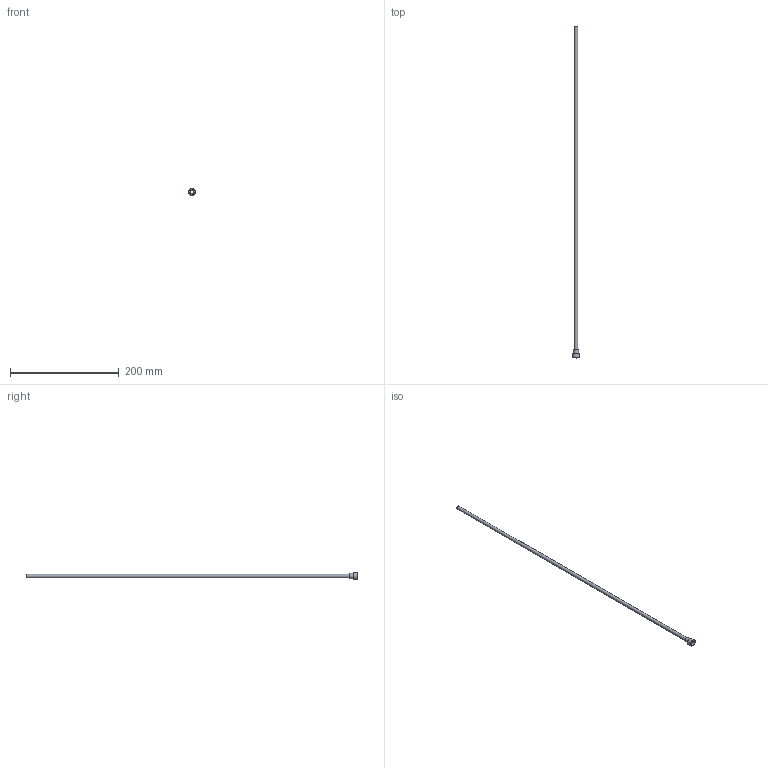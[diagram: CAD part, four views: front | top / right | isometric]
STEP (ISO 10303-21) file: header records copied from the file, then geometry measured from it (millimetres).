
FILE_DESCRIPTION(/* description */ (''),/* implementation_level */ '2;1');
FILE_NAME(/* name */ 'C:/Users/drich/Desktop/JR250T-24 v1.step',/* time_stamp */ '2019-12-30T13:05:47-06:00',/* author */ (''),/* organization */ (''),/* preprocessor_version */ 'ST-DEVELOPER v18',/* originating_system */ 'Autodesk Translation Framework v8.12.0.6',/* authorisation */ '');
FILE_SCHEMA (('AUTOMOTIVE_DESIGN { 1 0 10303 214 3 1 1 }'));
Length unit declared in the file: inch
Products named in the file (1): JR250T-24
Bounding box: 12.57 x 609.6 x 12.57 mm (x, y, z)
Volume: 3855.4 mm3; surface area: 23804.7 mm2
Topology: 1 solids, 1 shells, 19 faces, 47 edges, 33 vertices
Faces by surface type: plane 11, cylinder 4, torus 3, cone 1
Full cylindrical faces by diameter (mm): 5.842 x1, 6.35 x1, 9.406 x1, 12.573 x1
Entity records: 624 total; most frequent: DIRECTION 111, CARTESIAN_POINT 100, ORIENTED_EDGE 94, EDGE_CURVE 47, AXIS2_PLACEMENT_3D 44, VERTEX_POINT 33, EDGE_LOOP 24, CIRCLE 24
